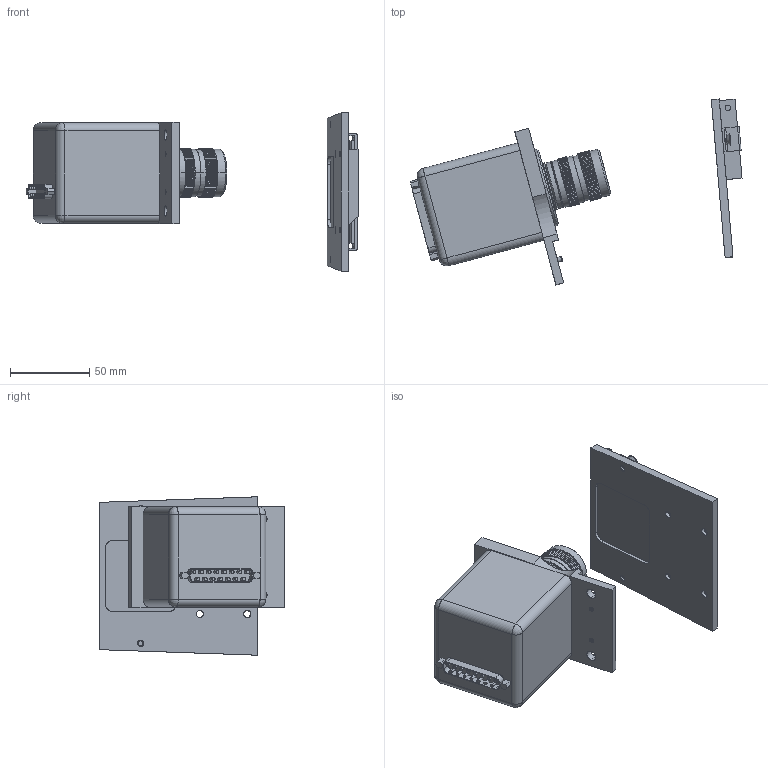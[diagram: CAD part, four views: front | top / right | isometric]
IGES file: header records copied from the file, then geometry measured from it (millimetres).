
Global section: file name: dasfsd.igs; native system: OneSpace Designer 3D IGES; preprocessor: 11.60D  09-Mar-2003; date: 20030620.095556; units: millimetre
Bounding box: 209.61 x 117.35 x 100 mm (x, y, z)
Surface area: 89803.6 mm2 (no closed solid volume)
Topology: 0 solids, 0 shells, 1259 faces, 7936 edges, 7934 vertices
Faces by surface type: bspline 1167, revolution 92
